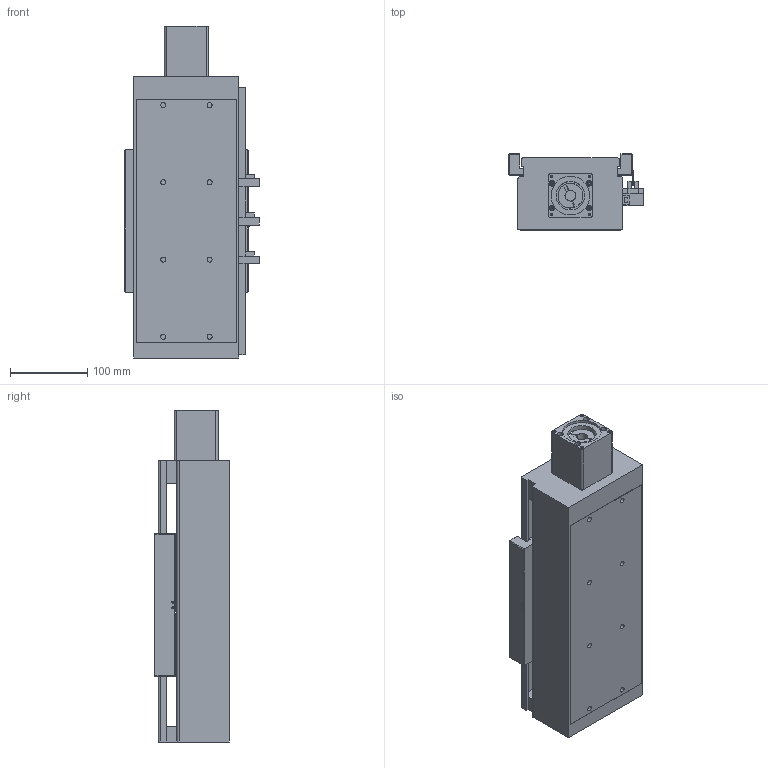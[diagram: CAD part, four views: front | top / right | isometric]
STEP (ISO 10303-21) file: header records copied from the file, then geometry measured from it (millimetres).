
FILE_DESCRIPTION((''),'2;1');
FILE_NAME('E:\libraries\UIA actuator library 2009\standard actuator\UIA136 ball screw 25\UIA136R15NDC-_ _ _-R25_ _, stp file 27Apr16\UIA136R15NDC-100-R25_ _-M60-P13-C10-S.stp','2016-04-28T09:41:38',('h029'),(''),'Autodesk Inventor 11','Autodesk Inventor 11','');
FILE_SCHEMA(('AUTOMOTIVE_DESIGN { 1 0 10303 214 1 1 1 1 }'));
Length unit declared in the file: millimetre
Products named in the file (10): UIA136R15NDC-100; UIA136R15NDC-body; motor mount F60; SOH-32C; SOH-32C-3; SOH-32C-1; SOH-32C-2; Carriage; Sensor Switch; sensor rail
Assembly tree (9 placements, depth 3):
  UIA136R15NDC-100
    UIA136R15NDC-body
    motor mount F60
    SOH-32C
      SOH-32C-3
      SOH-32C-1
      SOH-32C-2
    Carriage
    Sensor Switch
    sensor rail
Bounding box: 174.5 x 98 x 430 mm (x, y, z)
Volume: 2161356.5 mm3; surface area: 512722.1 mm2
Topology: 8 solids, 8 shells, 480 faces, 1283 edges, 838 vertices
Faces by surface type: plane 322, bspline 110, cylinder 44, cone 4
Full cylindrical faces by diameter (mm): 2.459 x2, 3.242 x2, 4.5 x2, 7 x4, 7.5 x2, 14 x3, 17 x1, 32 x3, 37 x1, 50.3 x1, 50.5 x1
Entity records: 15644 total; most frequent: CARTESIAN_POINT 4316, ORIENTED_EDGE 2208, DIRECTION 2162, EDGE_CURVE 1104, VECTOR 808, LINE 808, VERTEX_POINT 774, EDGE_LOOP 684
